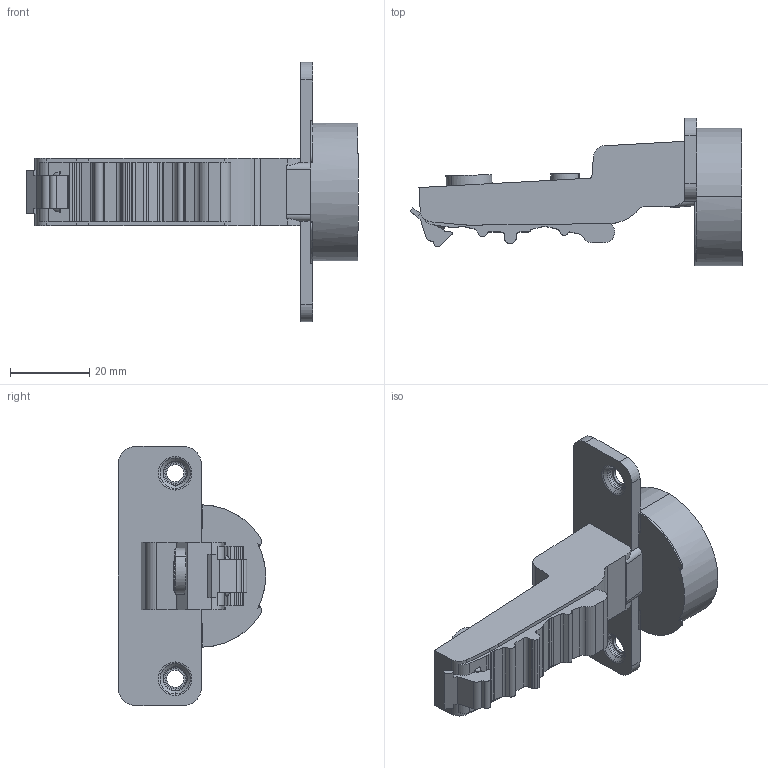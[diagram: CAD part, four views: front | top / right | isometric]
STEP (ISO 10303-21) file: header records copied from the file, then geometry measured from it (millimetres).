
FILE_DESCRIPTION (( 'STEP AP203' ), '1' );
FILE_NAME ('C82B677FA-DTC 3D close.STEP', '2024-07-10T09:05:46', ( '微软用户' ), ( '微软中国' ), 'SwSTEP 2.0', 'SolidWorks 2021', '' );
FILE_SCHEMA (( 'CONFIG_CONTROL_DESIGN' ));
Length unit declared in the file: millimetre
Products named in the file (1): C82B677FA-DTC 3D close
Bounding box: 83.97 x 37.28 x 65.56 mm (x, y, z)
Volume: 31811.3 mm3; surface area: 10404.2 mm2
Topology: 1 solids, 2 shells, 197 faces, 535 edges, 348 vertices
Faces by surface type: cylinder 81, plane 76, torus 24, cone 8, bspline 8
Entity records: 6578 total; most frequent: CARTESIAN_POINT 1485, DIRECTION 1071, ORIENTED_EDGE 1070, EDGE_CURVE 535, AXIS2_PLACEMENT_3D 402, VERTEX_POINT 348, LINE 267, VECTOR 267
